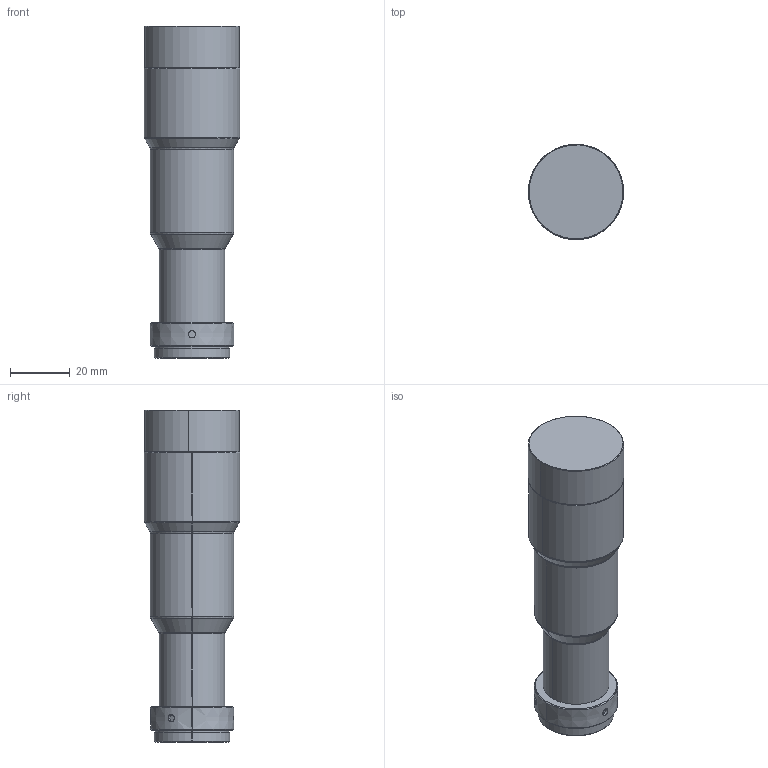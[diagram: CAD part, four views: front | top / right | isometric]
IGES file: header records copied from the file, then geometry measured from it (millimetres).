
Start section: SolidWorks IGES file using analytic representation for surfaces
Global section: file name: 6HF:\A负责系列\WWH\1.工作区-待完成镜头结构图纸\2.WWH\WWH08-108ATV3\A1.0\发客户3d\WWH08-108ATV3.IGS; native system: SolidWorks 2017; preprocessor: SolidWorks 2017; author: 16255; date: 240304.141540; units: millimetre
Bounding box: 32 x 32 x 111.56 mm (x, y, z)
Surface area: 11595.5 mm2 (no closed solid volume)
Topology: 0 solids, 0 shells, 51 faces, 860 edges, 860 vertices
Faces by surface type: revolution 37, bspline 14
